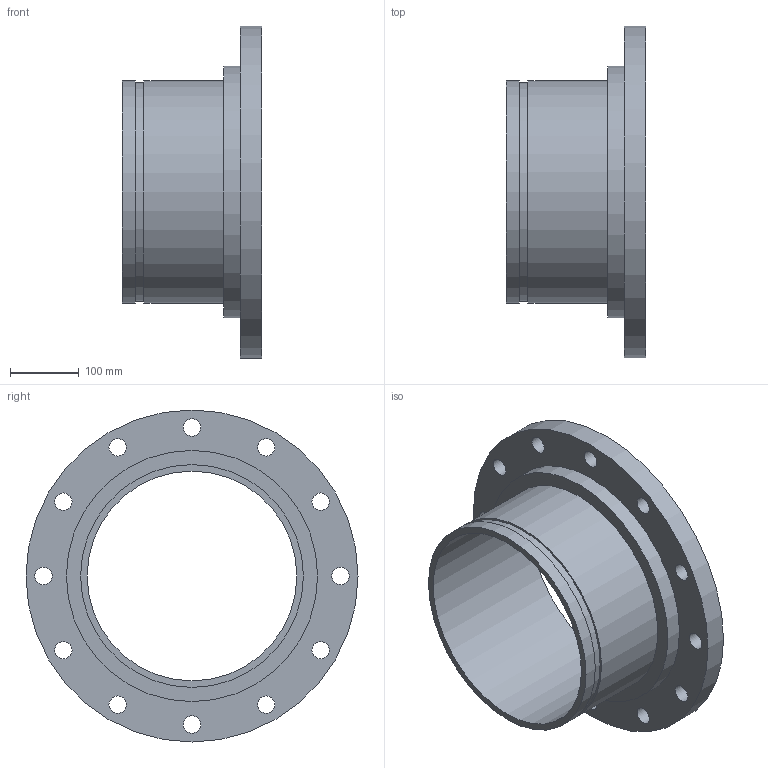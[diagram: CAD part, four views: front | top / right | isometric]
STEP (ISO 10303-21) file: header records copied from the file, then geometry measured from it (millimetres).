
FILE_DESCRIPTION(/* description */ ('VIC FLANGE ADAPTER No 45F','CAx-IF Rec.Pracs.---Representation and Presentation of Product Manufacturing Information (PMI)---4.0---2014-10-13'),/* implementation_level */ '2;1');
FILE_NAME(/* name */ 'C:\Users\kkamble\AppData\Roaming\Autodesk\ApplicationPlugins\Back Up\Victaulic_IPS_Flanged Adapter Nipple_CL 150 FF_No 45F (OGSxFLG)\Victaulic_IPS_Flanged Adapter Nipple_CL 150 FF_No 45F (OGSxFLG)_12 (300).stp',/* time_stamp */ '2020-07-26T22:23:18+06:00',/* author */ ('CONSTRUCTION PIPING SERVICES'),/* organization */ ('Victaulic'),/* preprocessor_version */ 'ST-DEVELOPER v17.2',/* originating_system */ 'Autodesk Inventor 2019',/* authorisation */ '');
FILE_SCHEMA (('AP242_MANAGED_MODEL_BASED_3D_ENGINEERING_MIM_LF { 1 0 10303 442 1 1 4 }'));
Length unit declared in the file: inch
Products named in the file (1): 045F-12.0
Bounding box: 203.2 x 482.6 x 482.6 mm (x, y, z)
Volume: 5410023.9 mm3; surface area: 663793.8 mm2
Topology: 1 solids, 1 shells, 24 faces, 66 edges, 48 vertices
Faces by surface type: cylinder 18, plane 6
Full cylindrical faces by diameter (mm): 25.4 x12, 304.8 x1, 318.287 x1, 323.85 x2, 365.252 x1, 482.6 x1
Entity records: 942 total; most frequent: DIRECTION 164, CARTESIAN_POINT 139, ORIENTED_EDGE 132, AXIS2_PLACEMENT_3D 73, EDGE_CURVE 66, EDGE_LOOP 54, CIRCLE 48, VERTEX_POINT 48
